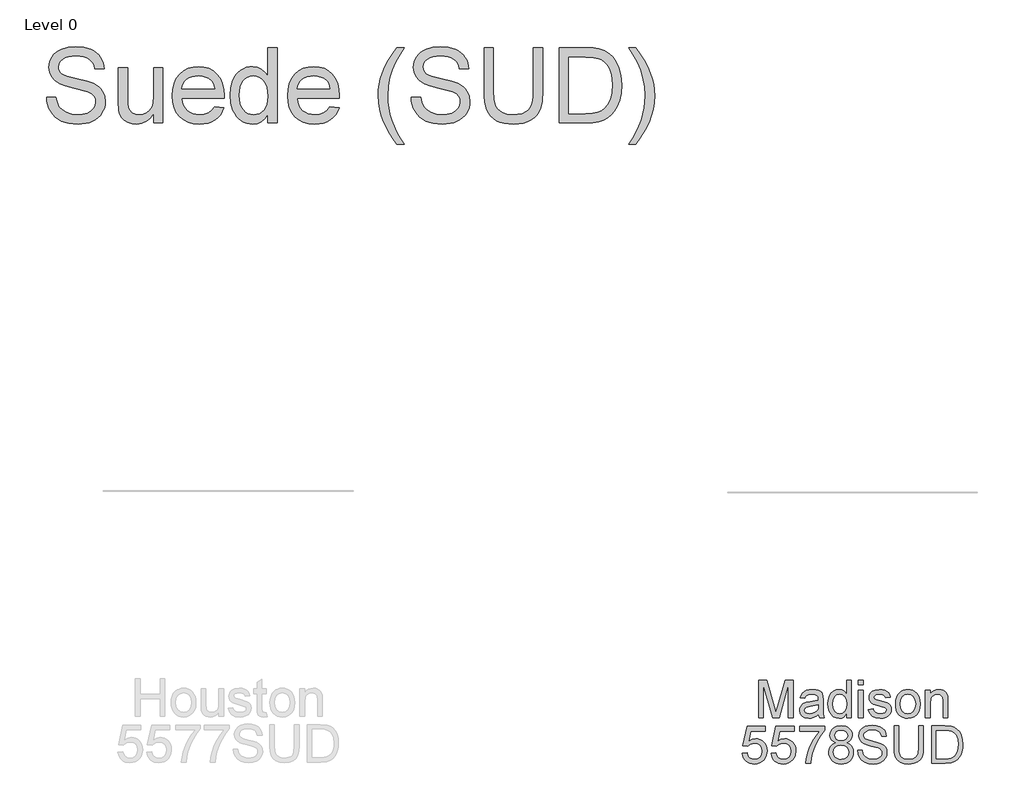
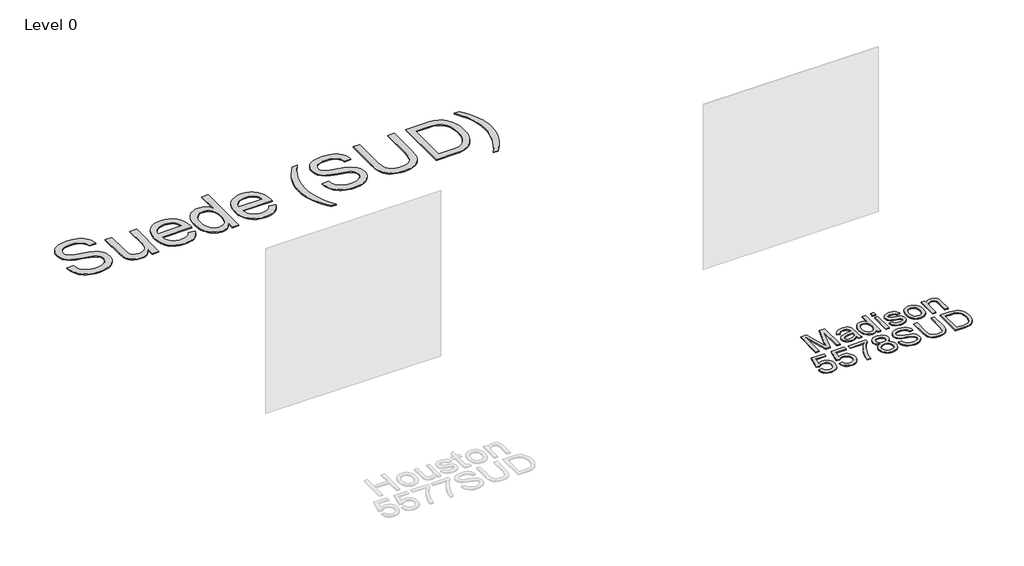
# One storey, part 3 of 9: 2 proxies.
"""IFC4 building model written with IfcOpenShell, lengths in millimetres."""

from ifc_helpers import new_model, si_unit, origin, origin_with_axes, place, context, project, spatial, polyline, outline, extrude, element, save

model = new_model("IFC4")

# Units and contexts
model_context = context("Model", 3, world=origin())
ifc_project = project(units=[si_unit("LENGTHUNIT", "METRE", prefix="MILLI")], contexts=[model_context])

# Site, building, storey
site = spatial("IfcSite", under=ifc_project)
building = spatial("IfcBuilding", under=site)
storey = spatial("IfcBuildingStorey", under=building, Name="Level 0", Elevation=0.0)

# Proxies
placement = place(None, origin())
element("IfcBuildingElementProxy", 1, Name="300mm Arial", ObjectType="300mm Arial", at=placement, inside=storey, context=model_context, shape_type="SweptSolid", body=[
    extrude(outline(polyline([(-5204.0803824, -17008.4454346), (-5204.0803824, -16707.0765041), (-5139.4803041, -16707.0765041), (-5077.6761289, -16919.4915681), (-5065.1681411, -16963.8581367), (-5051.70366, -16915.8127482), (-4991.0767072, -16707.0765041), (-4926.2558997, -16707.0765041), (-4926.2558997, -17008.4454346), (-4963.927016, -17008.4454346), (-4963.927016, -16744.7476204), (-5039.6371306, -17008.4454346), (-5090.6255751, -17008.4454346), (-5166.4092661, -16744.7476204), (-5166.4092661, -17008.4454346), (-5204.0803824, -17008.4454346)])), origin_with_axes(), (0.0, 0.0, 1.0), 10.0),
    extrude(outline(polyline([(-4723.7736495, -16980.1920973), (-4741.7722761, -16995.624747), (-4760.3043316, -17005.7231078), (-4779.7928803, -17011.29652), (-4800.6609865, -17013.1543241), (-4832.1424883, -17008.6845578), (-4855.3650392, -16995.2752591), (-4869.6848459, -16974.9129907), (-4874.4581148, -16949.5843153), (-4872.655493, -16933.9677246), (-4867.2476276, -16919.7858737), (-4858.9059034, -16907.6457679), (-4848.3017049, -16898.1544124), (-4821.9245658, -16885.7935774), (-4789.3302211, -16880.1281946), (-4750.8129762, -16874.1685063), (-4723.9943787, -16867.1787484), (-4723.7736495, -16858.7910389), (-4726.3672176, -16841.9788317), (-4734.1479218, -16830.9791601), (-4751.5487402, -16822.8121798), (-4775.7921636, -16820.089853), (-4798.2329654, -16821.9016718), (-4813.9047383, -16827.3371283), (-4824.5917103, -16837.3895038), (-4832.0781089, -16853.0520798), (-4869.7492252, -16848.3431903), (-4863.2101227, -16827.7417985), (-4853.4520528, -16811.5549907), (-4839.5645075, -16799.1757616), (-4820.6369789, -16789.9971058), (-4797.4880043, -16784.313329), (-4770.9361213, -16782.4187367), (-4745.4694902, -16784.0925998), (-4725.2819657, -16789.114189), (-4710.0608482, -16796.664967), (-4699.4934378, -16805.9263962), (-4692.4852858, -16817.3767233), (-4687.9419432, -16831.4941949), (-4686.1025332, -16864.4564216), (-4686.1025332, -16911.3245878), (-4684.1895468, -16976.7707948), (-4676.6847541, -17008.4454346), (-4714.3558705, -17008.4454346), (-4723.7736495, -16980.1920973)]), holes=[polyline([(-4723.7736495, -16904.8498647), (-4784.5477551, -16916.4013594), (-4816.9581589, -16922.5082005), (-4831.6366505, -16932.4410143), (-4836.7869984, -16946.935565), (-4833.9818982, -16958.1375717), (-4825.5665976, -16967.3162275), (-4811.7250375, -16973.4414627), (-4792.641159, -16975.4832078), (-4772.4076493, -16973.2299306), (-4754.5285843, -16966.4700989), (-4740.0340337, -16956.5096939), (-4729.954067, -16944.6546966), (-4725.4843008, -16932.4410143), (-4723.9943787, -16915.5184426), (-4723.7736495, -16904.8498647)])]), origin_with_axes(), (0.0, 0.0, 1.0), 10.0),
    extrude(outline(polyline([(-4497.7469517, -17008.4454346), (-4497.7469517, -16972.9080338), (-4509.0179363, -16990.5157858), (-4522.6709569, -17003.0927515), (-4538.7060133, -17010.6389309), (-4557.1231057, -17013.1543241), (-4581.4768938, -17009.5122923), (-4603.7705427, -16998.5861971), (-4622.6428891, -16981.1393935), (-4636.7327695, -16957.9352366), (-4645.5067551, -16929.9118256), (-4648.4314169, -16898.0072596), (-4645.7366813, -16866.4981667), (-4637.6524745, -16838.0424944), (-4624.1879934, -16814.2589234), (-4605.3524353, -16796.7661345), (-4582.5713427, -16786.0055862), (-4557.2702585, -16782.4187367), (-4538.8393706, -16784.9847136), (-4522.5421982, -16792.6826444), (-4508.7282292, -16804.4824594), (-4497.7469517, -16819.354089), (-4497.7469517, -16707.0765041), (-4460.0758354, -16707.0765041), (-4460.0758354, -17008.4454346), (-4497.7469517, -17008.4454346)]), holes=[polyline([(-4610.7603006, -16897.8601068), (-4606.5112636, -16931.9351766), (-4593.7641524, -16956.169403), (-4575.241294, -16970.6547566), (-4553.665015, -16975.4832078), (-4532.097933, -16970.8754858), (-4514.0441241, -16957.0523198), (-4501.8212448, -16933.7561925), (-4497.7469517, -16900.7295864), (-4501.8948212, -16864.6219685), (-4514.3384297, -16839.5875988), (-4532.8520911, -16824.9642895), (-4555.2101193, -16820.089853), (-4577.0071276, -16824.7711514), (-4594.8677984, -16838.8150466), (-4606.7871751, -16862.9389084), (-4610.7603006, -16897.8601068)])]), origin_with_axes(), (0.0, 0.0, 1.0), 10.0),
    extrude(outline(polyline([(-4403.5691609, -16744.7476204), (-4403.5691609, -16707.0765041), (-4365.8980446, -16707.0765041), (-4365.8980446, -16744.7476204), (-4403.5691609, -16744.7476204)])), origin_with_axes(), (0.0, 0.0, 1.0), 10.0),
    extrude(outline(polyline([(-4403.5691609, -17008.4454346), (-4403.5691609, -16787.1276263), (-4365.8980446, -16787.1276263), (-4365.8980446, -17008.4454346), (-4403.5691609, -17008.4454346)])), origin_with_axes(), (0.0, 0.0, 1.0), 10.0),
    extrude(outline(polyline([(-4323.5180388, -16942.520981), (-4285.8469225, -16937.8120915), (-4279.9056282, -16953.9253229), (-4268.4093159, -16965.7711231), (-4251.284409, -16973.0551866), (-4228.4573312, -16975.4832078), (-4205.9061649, -16973.2575217), (-4190.0504509, -16966.5804635), (-4180.66946, -16956.905167), (-4177.5424631, -16945.6847662), (-4180.6878541, -16936.0830461), (-4190.1240273, -16928.7621944), (-4228.8987896, -16918.0200401), (-4285.6261933, -16899.5891522), (-4299.9827881, -16890.3277229), (-4310.3846515, -16878.0680555), (-4316.7030248, -16863.591899), (-4318.8091492, -16847.6810027), (-4317.1168921, -16833.0852845), (-4312.0401205, -16819.6116064), (-4304.0386871, -16807.7933973), (-4293.5724444, -16798.1640861), (-4269.6233265, -16787.0172617), (-4237.2129227, -16782.4187367), (-4212.6935877, -16784.2673437), (-4191.3748261, -16789.8131648), (-4174.2315251, -16798.513574), (-4162.2385721, -16809.8259454), (-4154.292321, -16824.5872104), (-4149.2891259, -16843.6343007), (-4186.9602422, -16848.3431903), (-4191.715117, -16836.488193), (-4201.123699, -16827.5578575), (-4215.2779587, -16821.9568541), (-4234.2698667, -16820.089853), (-4255.9013281, -16821.8740807), (-4270.3223023, -16827.2267637), (-4278.4341003, -16834.9522856), (-4281.1380329, -16843.8550299), (-4276.6498726, -16854.8179134), (-4262.5967804, -16863.1320465), (-4230.1495884, -16871.151874), (-4174.8569245, -16888.8837861), (-4160.2520093, -16897.3634661), (-4149.1787613, -16908.9701431), (-4142.1982004, -16923.7406052), (-4139.8713468, -16941.7116406), (-4142.6028706, -16960.2896814), (-4150.797442, -16977.7640762), (-4164.1423614, -16992.7644645), (-4182.324929, -17003.920486), (-4204.2874841, -17010.8458646), (-4228.972366, -17013.1543241), (-4266.956182, -17008.7029519), (-4294.6760904, -16995.3488355), (-4313.1805547, -16973.2391276), (-4323.5180388, -16942.520981)])), origin_with_axes(), (0.0, 0.0, 1.0), 10.0),
    extrude(outline(polyline([(-4106.90912, -16897.7865304), (-4104.8719735, -16869.1239245), (-4098.7605338, -16844.425247), (-4088.5748011, -16823.690498), (-4074.3147752, -16806.9196776), (-4059.9581804, -16796.200516), (-4044.1116634, -16788.5439719), (-4026.7752244, -16783.9500455), (-4007.9488633, -16782.4187367), (-3987.1658298, -16784.2834386), (-3968.3739577, -16789.8775442), (-3951.5732468, -16799.2010535), (-3936.7636972, -16812.2539665), (-3924.6764744, -16828.5948249), (-3916.0427439, -16847.7821702), (-3910.8625055, -16869.8160025), (-3909.1357594, -16894.6963216), (-3912.18918, -16932.753714), (-3921.3494416, -16961.7244212), (-3936.34983, -16983.4202618), (-3956.9236306, -16999.6530549), (-3981.3601921, -17009.7790068), (-4007.9488633, -17013.1543241), (-4029.0353994, -17011.29652), (-4048.0020155, -17005.7231078), (-4064.8487117, -16996.4340874), (-4079.5754878, -16983.4294589), (-4091.5339519, -16966.9299514), (-4100.075712, -16947.1562942), (-4105.200768, -16924.1084872), (-4106.90912, -16897.7865304)]), holes=[polyline([(-4069.2380037, -16897.712954), (-4064.8786021, -16931.8064179), (-4051.8003971, -16956.0958266), (-4032.1187104, -16970.6363625), (-4007.9488633, -16975.4832078), (-3983.8893808, -16970.6087713), (-3964.2444823, -16955.985462), (-3951.1662774, -16931.3741566), (-3946.8068757, -16896.5357316), (-3951.1938685, -16863.4355491), (-3964.3548469, -16839.4772342), (-3984.0273366, -16824.9366983), (-4007.9488633, -16820.089853), (-4032.1187104, -16824.9183042), (-4051.8003971, -16839.4036578), (-4064.8786021, -16863.6378842), (-4069.2380037, -16897.712954)])]), origin_with_axes(), (0.0, 0.0, 1.0), 10.0),
    extrude(outline(polyline([(-3866.7557536, -17008.4454346), (-3866.7557536, -16787.1276263), (-3829.0846373, -16787.1276263), (-3829.0846373, -16818.0297138), (-3815.9972353, -16802.4499114), (-3800.279477, -16791.321481), (-3781.9313625, -16784.6444228), (-3760.9528918, -16782.4187367), (-3742.384048, -16784.2121614), (-3725.3787028, -16789.5924356), (-3711.1968519, -16797.8881746), (-3701.0984911, -16808.4279938), (-3689.8045139, -16836.129508), (-3687.8179511, -16872.5498255), (-3687.8179511, -17008.4454346), (-3725.4890674, -17008.4454346), (-3725.4890674, -16877.6265971), (-3729.830075, -16844.2964883), (-3735.8357485, -16834.3728715), (-3745.1707542, -16826.6749407), (-3757.1361161, -16821.7361249), (-3771.0328584, -16820.089853), (-3793.0965811, -16823.7870671), (-3811.9045481, -16834.8787092), (-3819.4208371, -16843.9332048), (-3824.789615, -16856.3078354), (-3829.0846373, -16891.0175017), (-3829.0846373, -17008.4454346), (-3866.7557536, -17008.4454346)])), origin_with_axes(), (0.0, 0.0, 1.0), 10.0),
    extrude(outline(polyline([(-5333.5748447, -17294.3187659), (-5295.9037284, -17289.6098764), (-5288.9875469, -17312.2254221), (-5276.9210175, -17328.4214269), (-5259.7593224, -17338.1611027), (-5237.557644, -17341.4076613), (-5210.5551055, -17336.8919098), (-5190.3215958, -17323.3446554), (-5177.6848493, -17302.3293964), (-5173.4726004, -17275.4096314), (-5177.4181348, -17250.0625619), (-5189.254738, -17230.6751808), (-5209.0743805, -17218.369528), (-5236.9690328, -17214.2676438), (-5255.2435709, -17215.9047187), (-5270.0416242, -17220.8159433), (-5291.1948389, -17237.8120915), (-5328.8659552, -17233.1032019), (-5295.9037284, -17077.7098472), (-5149.9281527, -17077.7098472), (-5149.9281527, -17115.3809635), (-5265.4430992, -17115.3809635), (-5281.629907, -17198.3751416), (-5254.7193391, -17182.041181), (-5226.5211841, -17176.5965275), (-5208.1730696, -17178.2841861), (-5191.3148772, -17183.3471621), (-5175.9466068, -17191.7854554), (-5162.0682586, -17203.5990659), (-5150.5765448, -17218.0660254), (-5142.3681777, -17234.4643653), (-5137.4431575, -17252.7940857), (-5135.8014841, -17273.0551866), (-5141.7059901, -17310.7263029), (-5149.0866227, -17327.520116), (-5159.4195082, -17342.9527657), (-5175.0728871, -17358.7578959), (-5193.3382282, -17370.0472746), (-5214.2155314, -17376.8209019), (-5237.7047968, -17379.0787776), (-5274.7045285, -17373.2754392), (-5290.3831992, -17366.0212661), (-5304.1810733, -17355.8654237), (-5315.6612908, -17343.3137499), (-5324.3869919, -17328.8720823), (-5333.5748447, -17294.3187659)])), origin_with_axes(), (0.0, 0.0, 1.0), 10.0),
    extrude(outline(polyline([(-5102.8392574, -17294.3187659), (-5065.1681411, -17289.6098764), (-5058.2519595, -17312.2254221), (-5046.1854301, -17328.4214269), (-5029.023735, -17338.1611027), (-5006.8220566, -17341.4076613), (-4979.8195182, -17336.8919098), (-4959.5860084, -17323.3446554), (-4946.9492619, -17302.3293964), (-4942.7370131, -17275.4096314), (-4946.6825475, -17250.0625619), (-4958.5191506, -17230.6751808), (-4978.3387931, -17218.369528), (-5006.2334454, -17214.2676438), (-5024.5079835, -17215.9047187), (-5039.3060368, -17220.8159433), (-5060.4592515, -17237.8120915), (-5098.1303678, -17233.1032019), (-5065.1681411, -17077.7098472), (-4919.1925654, -17077.7098472), (-4919.1925654, -17115.3809635), (-5034.7075119, -17115.3809635), (-5050.8943196, -17198.3751416), (-5023.9837517, -17182.041181), (-4995.7855968, -17176.5965275), (-4977.4374823, -17178.2841861), (-4960.5792898, -17183.3471621), (-4945.2110195, -17191.7854554), (-4931.3326712, -17203.5990659), (-4919.8409574, -17218.0660254), (-4911.6325904, -17234.4643653), (-4906.7075702, -17252.7940857), (-4905.0658967, -17273.0551866), (-4910.9704028, -17310.7263029), (-4918.3510353, -17327.520116), (-4928.6839208, -17342.9527657), (-4944.3372997, -17358.7578959), (-4962.6026408, -17370.0472746), (-4983.479944, -17376.8209019), (-5006.9692094, -17379.0787776), (-5043.9689411, -17373.2754392), (-5059.6476119, -17366.0212661), (-5073.4454859, -17355.8654237), (-5084.9257035, -17343.3137499), (-5093.6514045, -17328.8720823), (-5102.8392574, -17294.3187659)])), origin_with_axes(), (0.0, 0.0, 1.0), 10.0),
    extrude(outline(polyline([(-4872.10367, -17115.3809635), (-4872.10367, -17077.7098472), (-4674.3303094, -17077.7098472), (-4674.3303094, -17108.1704764), (-4702.5192673, -17143.8458329), (-4730.4323136, -17189.2148799), (-4755.0528162, -17240.1389451), (-4773.3641425, -17292.479356), (-4782.3404632, -17331.6403943), (-4787.3436583, -17374.3698881), (-4825.0147746, -17374.3698881), (-4820.9404815, -17335.5399435), (-4810.0419774, -17289.3891472), (-4792.6135679, -17240.4700389), (-4768.9495585, -17193.3351583), (-4741.3216207, -17150.7252262), (-4712.0014257, -17115.3809635), (-4872.10367, -17115.3809635)])), origin_with_axes(), (0.0, 0.0, 1.0), 10.0),
    extrude(outline(polyline([(-4586.4800889, -17208.3815319), (-4606.6492193, -17198.448718), (-4620.8034791, -17184.984237), (-4629.1635974, -17168.2640003), (-4631.9503035, -17148.5639194), (-4630.4327903, -17133.2002476), (-4625.8802506, -17119.1149657), (-4618.2926845, -17106.3080738), (-4607.6700918, -17094.7795718), (-4594.522909, -17085.2514281), (-4579.3615723, -17078.4456112), (-4542.9964371, -17073.0009576), (-4506.4105727, -17078.5743699), (-4491.0836891, -17085.5411351), (-4477.7341712, -17095.2946065), (-4466.9184405, -17107.0484363), (-4459.1929186, -17120.0162766), (-4454.5576055, -17134.1981275), (-4453.0125011, -17149.593989), (-4455.762419, -17168.6594734), (-4464.0121727, -17185.0946016), (-4477.8537328, -17198.4763091), (-4497.3790697, -17208.3815319), (-4474.1933069, -17220.3284997), (-4457.3167204, -17237.9224561), (-4447.0252216, -17260.3172725), (-4443.594722, -17286.6668204), (-4445.2961762, -17305.4563933), (-4450.4005389, -17322.6824678), (-4458.90781, -17338.3450437), (-4470.8179896, -17352.4441212), (-4485.5056783, -17364.0967834), (-4502.3454766, -17372.4201135), (-4521.3373846, -17377.4141116), (-4542.4814023, -17379.0787776), (-4563.62542, -17377.4072138), (-4582.617328, -17372.3925224), (-4599.4571263, -17364.0347033), (-4614.144815, -17352.3337566), (-4626.0549946, -17338.1358108), (-4634.5622657, -17322.2869946), (-4639.6666284, -17304.787308), (-4641.3680826, -17285.6367509), (-4637.7996273, -17258.2663304), (-4627.0942612, -17235.7519523), (-4609.8038074, -17218.8661687), (-4586.4800889, -17208.3815319)]), holes=[polyline([(-4594.2791872, -17149.6675654), (-4590.9406581, -17166.1118906), (-4580.9250708, -17179.2452778), (-4564.5267309, -17187.8537165), (-4542.0399439, -17190.7231961), (-4520.0773888, -17187.8721106), (-4503.9273692, -17179.3188542), (-4493.9945553, -17166.6269254), (-4490.6836174, -17151.3598226), (-4494.1049199, -17135.5133057), (-4504.3688276, -17122.4075096), (-4520.7395764, -17113.6059329), (-4542.4814023, -17110.6720739), (-4564.361184, -17113.5415535), (-4580.7043416, -17122.1499922), (-4590.8854758, -17134.7683446), (-4594.2791872, -17149.6675654)]), polyline([(-4603.6969663, -17284.3123757), (-4597.4061842, -17312.6760775), (-4588.6965779, -17324.8437745), (-4575.1493235, -17333.9028686), (-4558.9257275, -17339.5314631), (-4542.1870967, -17341.4076613), (-4516.5457216, -17337.4621269), (-4497.3054933, -17325.6255237), (-4485.2757521, -17307.7004735), (-4481.2658383, -17285.4895981), (-4485.4045108, -17262.9016435), (-4497.8205281, -17244.5811202), (-4517.5022148, -17232.4410143), (-4543.4378955, -17228.3943124), (-4568.7205856, -17232.385832), (-4587.7676759, -17244.360391), (-4599.7146437, -17262.3314265), (-4603.6969663, -17284.3123757)])]), origin_with_axes(), (0.0, 0.0, 1.0), 10.0),
    extrude(outline(polyline([(-4410.6324952, -17270.7743182), (-4372.9613789, -17270.7743182), (-4368.6387655, -17291.6792126), (-4360.8212731, -17308.4822228), (-4348.6259849, -17321.8179451), (-4331.1699843, -17332.320976), (-4309.8328286, -17339.13599), (-4285.9940753, -17341.4076613), (-4265.0064074, -17339.687813), (-4246.6307018, -17334.528268), (-4231.740678, -17326.3612877), (-4221.2100559, -17315.6191335), (-4214.9468649, -17303.2858896), (-4212.8591346, -17290.3456404), (-4214.4226331, -17277.736485), (-4219.1131285, -17266.8379809), (-4228.6412722, -17257.5397635), (-4244.7177154, -17249.7314681), (-4299.5689209, -17235.3472821), (-4335.5753712, -17225.8283355), (-4358.6139811, -17216.7692414), (-4377.3667658, -17204.0957066), (-4390.6565029, -17188.7366333), (-4398.5751628, -17171.0231153), (-4401.2147162, -17151.2862462), (-4397.9497634, -17129.2225236), (-4388.1549053, -17108.648723), (-4372.0876592, -17091.2111164), (-4350.0055424, -17078.5559758), (-4323.4996447, -17070.858045), (-4294.1610556, -17068.2920681), (-4262.3760512, -17070.9776067), (-4234.5641723, -17079.0342224), (-4211.7187004, -17092.2963683), (-4194.8329169, -17110.5984975), (-4184.1459449, -17132.800176), (-4179.8969079, -17157.7609693), (-4217.5680242, -17157.7609693), (-4224.4842057, -17135.2833794), (-4238.9051799, -17119.0597834), (-4261.4379521, -17109.2373342), (-4292.6895276, -17105.9631844), (-4324.6768671, -17109.200546), (-4346.6210281, -17118.9126306), (-4359.3129569, -17133.2048461), (-4363.5435998, -17150.1826002), (-4360.5453616, -17164.6587567), (-4351.5506468, -17176.3022219), (-4330.2870675, -17186.7132823), (-4290.0407772, -17197.345072), (-4248.5069, -17207.4434328), (-4223.3805597, -17216.2542066), (-4201.9054482, -17229.9210227), (-4186.923454, -17246.7884122), (-4178.1218772, -17266.672434), (-4175.1880183, -17289.3891472), (-4178.5633356, -17312.6116981), (-4188.6892875, -17334.4546916), (-4205.1520068, -17353.2534616), (-4227.5376262, -17367.343342), (-4254.4573912, -17376.1449187), (-4284.5225473, -17379.0787776), (-4321.4303085, -17375.9149925), (-4351.8081642, -17366.423637), (-4376.0056024, -17350.567923), (-4394.372111, -17328.3110623), (-4406.162729, -17301.1981592), (-4410.6324952, -17270.7743182)])), origin_with_axes(), (0.0, 0.0, 1.0), 10.0),
    extrude(outline(polyline([(-3920.9079833, -17073.0009576), (-3883.2368669, -17073.0009576), (-3883.2368669, -17246.8619886), (-3885.7936468, -17287.5773284), (-3893.4639864, -17318.9300714), (-3907.7929901, -17343.1183126), (-3930.3257623, -17362.3401468), (-3961.1174853, -17374.8941199), (-4000.2233414, -17379.0787776), (-4038.4738719, -17375.4367459), (-4069.0540627, -17364.5106506), (-4091.973111, -17346.6775709), (-4107.2402138, -17322.3145858), (-4115.8210613, -17289.6374675), (-4118.6813439, -17246.8619886), (-4118.6813439, -17073.0009576), (-4081.0102276, -17073.0009576), (-4081.0102276, -17245.5376134), (-4079.1524235, -17279.391954), (-4073.5790113, -17302.9639928), (-4063.4806505, -17319.2887564), (-4048.0480008, -17331.4012711), (-4027.9248556, -17338.9060638), (-4003.7550086, -17341.4076613), (-3965.4400988, -17336.4596485), (-3951.0972995, -17330.2746324), (-3939.9642706, -17321.61561), (-3931.6271449, -17309.4387159), (-3925.6720551, -17292.7000852), (-3920.9079833, -17245.5376134), (-3920.9079833, -17073.0009576)])), origin_with_axes(), (0.0, 0.0, 1.0), 10.0),
    extrude(outline(polyline([(-3817.3124134, -17374.3698881), (-3817.3124134, -17073.0009576), (-3713.3489616, -17073.0009576), (-3659.5646139, -17077.3419652), (-3635.5419196, -17085.7112806), (-3615.2716217, -17098.8998501), (-3594.4311066, -17121.8556866), (-3579.5870681, -17150.4033294), (-3570.7027179, -17183.9909556), (-3567.7412679, -17222.0667421), (-3569.7462248, -17254.4127665), (-3575.7610954, -17282.8776359), (-3584.9213571, -17307.1118623), (-3596.3624871, -17326.7659579), (-3609.5326625, -17342.2813811), (-3623.8800603, -17354.0995902), (-3640.3519767, -17362.8643787), (-3659.8957077, -17369.2195402), (-3708.3457664, -17374.3698881), (-3817.3124134, -17374.3698881)]), holes=[polyline([(-3779.6412971, -17336.6987718), (-3712.9810796, -17336.6987718), (-3685.408324, -17335.3376084), (-3664.4942326, -17331.2541183), (-3648.712095, -17324.6874246), (-3636.535201, -17315.8766509), (-3623.447799, -17299.5702814), (-3613.6161527, -17278.4630519), (-3607.4633263, -17252.4629919), (-3605.4123842, -17221.4781309), (-3609.431495, -17180.4225002), (-3621.4888274, -17150.1090238), (-3639.303513, -17129.2869029), (-3660.5946835, -17116.7053387), (-3682.262933, -17112.1803901), (-3714.0111492, -17110.6720739), (-3779.6412971, -17110.6720739), (-3779.6412971, -17336.6987718)])]), origin_with_axes(), (0.0, 0.0, 1.0), 10.0),
])
element("IfcBuildingElementProxy", 2, Name="600mm Arial", ObjectType="600mm Arial", at=placement, inside=storey, context=model_context, shape_type="SweptSolid", body=[
    extrude(outline(polyline([(-10905.7165225, -12038.2658482), (-10830.3742899, -12038.2658482), (-10821.729063, -12080.075637), (-10806.0940782, -12113.6816572), (-10781.7035019, -12140.3531019), (-10746.7915006, -12161.3591638), (-10704.1171891, -12174.9891917), (-10656.4396825, -12179.5325344), (-10614.4643469, -12176.0928377), (-10577.7129356, -12165.7737477), (-10547.9328881, -12149.4397872), (-10526.8716438, -12127.9554786), (-10514.3452619, -12103.2889909), (-10510.1698013, -12077.4084925), (-10513.2967982, -12052.1901817), (-10522.6777891, -12030.3931735), (-10541.7340764, -12011.7967387), (-10573.8869628, -11996.180148), (-10683.5893738, -11967.4117759), (-10755.6022743, -11948.3738827), (-10801.6794942, -11930.2556944), (-10839.1850636, -11904.908625), (-10865.7645378, -11874.1904784), (-10881.6018577, -11838.7634422), (-10886.8809643, -11799.2897041), (-10885.248488, -11776.853501), (-10880.3510589, -11755.1622588), (-10872.1886771, -11734.2159777), (-10860.7613427, -11714.0146577), (-10846.1978142, -11695.3814346), (-10828.6268504, -11679.1394445), (-10808.0484513, -11665.2886874), (-10784.4626169, -11653.8291633), (-10731.4508214, -11638.4333018), (-10672.7736431, -11633.3013479), (-10609.2036344, -11638.6724251), (-10553.5798767, -11654.7856564), (-10529.2444827, -11666.7878065), (-10507.8889329, -11681.3099483), (-10489.5132272, -11698.3520817), (-10474.1173657, -11717.9142068), (-10461.82091, -11739.4261065), (-10452.7434218, -11762.3175636), (-10446.884901, -11786.5885783), (-10444.2453477, -11812.2391504), (-10519.5875803, -11812.2391504), (-10524.6275637, -11788.198062), (-10533.4199434, -11767.2839706), (-10545.9647194, -11749.4968761), (-10562.2618918, -11734.8367786), (-10582.6149632, -11723.3772544), (-10607.3274362, -11715.1918801), (-10636.3993109, -11710.2806554), (-10669.8305872, -11708.6435805), (-10704.3287213, -11710.2622613), (-10733.8052661, -11715.1183037), (-10758.2602218, -11723.2117075), (-10777.6935881, -11734.542473), (-10792.5008385, -11748.1633039), (-10803.0774458, -11763.126904), (-10809.4234102, -11779.4332735), (-10811.5387317, -11797.0824122), (-10810.0396126, -11812.2667415), (-10805.5422552, -11826.0347252), (-10798.0466595, -11838.3863632), (-10787.5528256, -11849.3216555), (-10771.034924, -11859.6775337), (-10745.025667, -11870.1437764), (-10664.5330864, -11891.4073557), (-10581.4653319, -11911.6040773), (-10531.2126514, -11929.2256248), (-10488.2624284, -11956.5592571), (-10471.6571549, -11972.6265032), (-10458.2984399, -11990.294036), (-10448.0299337, -12009.469885), (-10440.6952865, -12030.0620797), (-10434.8275686, -12075.4955061), (-10436.5152273, -12099.0629464), (-10441.5782033, -12121.940608), (-10450.0164965, -12144.1284909), (-10461.8301071, -12165.6265949), (-10476.8121013, -12185.6025873), (-10494.7555457, -12203.2241349), (-10515.66044, -12218.4912377), (-10539.5267845, -12231.4038957), (-10565.6602017, -12241.6724019), (-10593.3663145, -12249.0070492), (-10653.4966266, -12254.874767), (-10692.0368641, -12253.2928744), (-10727.3121489, -12248.5471967), (-10759.322481, -12240.6377338), (-10788.0678604, -12229.5644857), (-10813.7230311, -12215.3090584), (-10836.4627369, -12197.8530577), (-10856.2869779, -12177.1964837), (-10873.1957541, -12153.3393363), (-10886.816585, -12127.0541678), (-10896.77699, -12099.1135302), (-10903.0769692, -12069.5174237), (-10905.7165225, -12038.2658482)])), origin_with_axes(), (0.0, 0.0, 1.0), 10.0),
    extrude(outline(polyline([(-10048.6986265, -12245.4569879), (-10048.6986265, -12169.3789913), (-10075.9586823, -12206.7833932), (-10107.7068985, -12233.5008231), (-10143.9432751, -12249.531281), (-10184.6678119, -12254.874767), (-10221.3640409, -12251.1223706), (-10255.5218842, -12239.8651816), (-10284.1798916, -12222.9426098), (-10304.3766132, -12202.1940653), (-10317.9698529, -12176.9941486), (-10326.8174149, -12146.7174604), (-10331.2319988, -12076.6727285), (-10331.2319988, -11802.8213713), (-10255.8897662, -11802.8213713), (-10255.8897662, -12041.2089042), (-10254.749332, -12088.8864108), (-10251.3280295, -12118.0226648), (-10240.3467519, -12143.6456457), (-10221.5295878, -12163.1249974), (-10196.1273361, -12175.4306501), (-10165.3907954, -12179.5325344), (-10132.8884211, -12175.3386796), (-10102.4829742, -12162.7571154), (-10077.4118162, -12142.9466699), (-10060.9123087, -12117.0661716), (-10051.7520471, -12081.6207413), (-10048.6986265, -12033.1155003), (-10048.6986265, -11802.8213713), (-9973.3563939, -11802.8213713), (-9973.3563939, -12245.4569879), (-10048.6986265, -12245.4569879)])), origin_with_axes(), (0.0, 0.0, 1.0), 10.0),
    extrude(outline(polyline([(-9559.8570313, -12113.6080808), (-9485.9863267, -12123.0258599), (-9497.3124936, -12152.6127694), (-9512.602589, -12178.6864058), (-9531.856613, -12201.2467691), (-9555.0745654, -12220.2938594), (-9582.017323, -12235.4230065), (-9612.4457625, -12246.2295401), (-9646.359884, -12252.7134603), (-9683.7596873, -12254.874767), (-9730.5082918, -12251.1453632), (-9772.1617307, -12239.9571521), (-9808.720004, -12221.3101334), (-9840.1831116, -12195.2043074), (-9865.4841959, -12162.3662408), (-9883.5563989, -12123.5225006), (-9894.3997207, -12078.6730869), (-9898.0141613, -12027.8179996), (-9894.3629325, -11975.2384654), (-9883.4092461, -11928.894531), (-9865.1531021, -11888.7861965), (-9839.5945004, -11854.9134618), (-9808.2141663, -11828.0028939), (-9772.4928245, -11808.7810596), (-9732.4304753, -11797.2479591), (-9688.0271184, -11793.4035922), (-9645.0539029, -11797.238762), (-9606.1917686, -11808.7442714), (-9571.4407156, -11827.9201204), (-9540.800744, -11854.766309), (-9515.7893668, -11888.5654673), (-9497.9240974, -11928.6002255), (-9487.2049358, -11974.8705834), (-9483.6318819, -12027.3765412), (-9484.0733403, -12047.6836273), (-9822.6719287, -12047.6836273), (-9818.3079285, -12077.7487833), (-9809.6305119, -12104.0799372), (-9796.639679, -12126.6770887), (-9779.3354296, -12145.540238), (-9758.6742571, -12160.4118677), (-9735.6126545, -12171.0344603), (-9710.1506219, -12177.4080158), (-9682.2881593, -12179.5325344), (-9642.1890218, -12175.596197), (-9608.4174547, -12163.787185), (-9580.9734578, -12143.3697342), (-9559.8570313, -12113.6080808)]), holes=[polyline([(-9822.6719287, -11972.3413947), (-9558.9741145, -11972.3413947), (-9569.1644458, -11932.5365628), (-9577.9292343, -11916.8831839), (-9589.1404381, -11904.0624964), (-9609.6866476, -11888.6114526), (-9633.0655484, -11877.5749927), (-9659.2771405, -11870.9531168), (-9688.321424, -11868.7458248), (-9714.8135262, -11870.5070599), (-9739.1075335, -11875.790765), (-9761.2034458, -11884.5969403), (-9781.1012632, -11896.9255857), (-9797.7985073, -11912.206484), (-9810.2926995, -11929.8694183), (-9818.58384, -11949.9143885), (-9822.6719287, -11972.3413947)])]), origin_with_axes(), (0.0, 0.0, 1.0), 10.0),
    extrude(outline(polyline([(-9135.1740561, -12245.4569879), (-9135.1740561, -12174.3821864), (-9157.7160253, -12209.5976904), (-9185.0220664, -12234.7516218), (-9217.0921794, -12249.8439807), (-9253.9263641, -12254.874767), (-9278.795187, -12253.0537511), (-9302.6339403, -12247.5907035), (-9325.442624, -12238.4856241), (-9347.2212381, -12225.738513), (-9367.2892009, -12209.7310476), (-9384.9659308, -12190.8449057), (-9400.2514277, -12169.0800872), (-9413.1456916, -12144.436592), (-9423.3820082, -12117.3834698), (-9430.6936628, -12088.3897701), (-9436.5429865, -12024.580638), (-9431.1535153, -11961.5624522), (-9414.9851016, -11904.6511076), (-9402.8633899, -11879.294841), (-9388.0561396, -11857.0839656), (-9370.5633507, -11838.0184812), (-9350.3850233, -11822.0983878), (-9328.2339286, -11809.5444148), (-9304.8228382, -11800.5772911), (-9280.1517519, -11795.197017), (-9254.2206697, -11793.4035922), (-9217.3588938, -11798.5355461), (-9184.764549, -11813.9314076), (-9157.1366112, -11837.5310375), (-9135.1740561, -11867.2742969), (-9135.1740561, -11642.719127), (-9059.8318235, -11642.719127), (-9059.8318235, -12245.4569879), (-9135.1740561, -12245.4569879)]), holes=[polyline([(-9361.2007539, -12024.2863324), (-9359.0762354, -12060.821613), (-9352.7026798, -12092.436472), (-9342.0800872, -12119.1309093), (-9327.2084576, -12140.9049249), (-9309.4489542, -12157.804504), (-9290.1627407, -12169.875632), (-9269.3498168, -12177.1183088), (-9247.0101826, -12179.5325344), (-9224.5647824, -12177.2286734), (-9203.8760187, -12170.3170904), (-9184.9438915, -12158.7977854), (-9167.7684009, -12142.6707584), (-9153.508375, -12121.8072508), (-9143.3226423, -12096.0785038), (-9137.2112026, -12065.4845173), (-9135.1740561, -12030.0252915), (-9137.2479908, -11991.1493617), (-9143.4697951, -11957.8100559), (-9153.8394688, -11930.0073741), (-9168.357012, -11907.7413163), (-9185.9095817, -11890.6807888), (-9205.3843349, -11878.4946977), (-9226.7812714, -11871.1830431), (-9250.1003914, -11868.7458248), (-9272.8814839, -11871.086474), (-9293.6944078, -11878.1084216), (-9312.539163, -11889.8116676), (-9329.4157495, -11906.1962119), (-9343.321689, -11927.6207396), (-9353.2545028, -11954.4439356), (-9359.2141911, -11986.6657999), (-9361.2007539, -12024.2863324)])]), origin_with_axes(), (0.0, 0.0, 1.0), 10.0),
    extrude(outline(polyline([(-8636.9146818, -12113.6080808), (-8563.0439772, -12123.0258599), (-8574.3701441, -12152.6127694), (-8589.6602395, -12178.6864058), (-8608.9142635, -12201.2467691), (-8632.1322159, -12220.2938594), (-8659.0749735, -12235.4230065), (-8689.503413, -12246.2295401), (-8723.4175345, -12252.7134603), (-8760.8173378, -12254.874767), (-8807.5659423, -12251.1453632), (-8849.2193812, -12239.9571521), (-8885.7776545, -12221.3101334), (-8917.2407621, -12195.2043074), (-8942.5418464, -12162.3662408), (-8960.6140494, -12123.5225006), (-8971.4573712, -12078.6730869), (-8975.0718118, -12027.8179996), (-8971.420583, -11975.2384654), (-8960.4668966, -11928.894531), (-8942.2107526, -11888.7861965), (-8916.6521509, -11854.9134618), (-8885.2718168, -11828.0028939), (-8849.550475, -11808.7810596), (-8809.4881258, -11797.2479591), (-8765.0847689, -11793.4035922), (-8722.1115534, -11797.238762), (-8683.2494191, -11808.7442714), (-8648.4983661, -11827.9201204), (-8617.8583945, -11854.766309), (-8592.8470173, -11888.5654673), (-8574.9817479, -11928.6002255), (-8564.2625863, -11974.8705834), (-8560.6895324, -12027.3765412), (-8561.1309908, -12047.6836273), (-8899.7295792, -12047.6836273), (-8895.365579, -12077.7487833), (-8886.6881624, -12104.0799372), (-8873.6973295, -12126.6770887), (-8856.3930801, -12145.540238), (-8835.7319076, -12160.4118677), (-8812.670305, -12171.0344603), (-8787.2082724, -12177.4080158), (-8759.3458098, -12179.5325344), (-8719.2466723, -12175.596197), (-8685.4751052, -12163.787185), (-8658.0311083, -12143.3697342), (-8636.9146818, -12113.6080808)]), holes=[polyline([(-8899.7295792, -11972.3413947), (-8636.031765, -11972.3413947), (-8646.2220963, -11932.5365628), (-8654.9868848, -11916.8831839), (-8666.1980886, -11904.0624964), (-8686.7442981, -11888.6114526), (-8710.1231989, -11877.5749927), (-8736.334791, -11870.9531168), (-8765.3790745, -11868.7458248), (-8791.8711767, -11870.5070599), (-8816.165184, -11875.790765), (-8838.2610963, -11884.5969403), (-8858.1589137, -11896.9255857), (-8874.8561578, -11912.206484), (-8887.35035, -11929.8694183), (-8895.6414905, -11949.9143885), (-8899.7295792, -11972.3413947)])]), origin_with_axes(), (0.0, 0.0, 1.0), 10.0),
    extrude(outline(polyline([(-8099.2183577, -12414.9770113), (-8129.6330016, -12375.6228348), (-8157.6012303, -12333.049691), (-8183.1230437, -12287.2575796), (-8206.1984419, -12238.2465008), (-8225.3191086, -12187.1660858), (-8238.9767276, -12135.1659657), (-8247.1712991, -12082.2461407), (-8249.9028229, -12028.4066107), (-8247.8610778, -11981.0877891), (-8241.7358426, -11934.780643), (-8231.5271172, -11889.4851723), (-8217.2349017, -11845.2013771), (-8195.5114699, -11794.4152677), (-8168.600902, -11743.7395229), (-8136.5031979, -11693.1741426), (-8099.2183577, -11642.719127), (-8042.7116832, -11642.719127), (-8087.0414636, -11714.3457515), (-8113.1978735, -11762.0600462), (-8137.257356, -11818.7138735), (-8155.5778793, -11877.7221455), (-8169.8149125, -11953.1011663), (-8174.5605903, -12028.8480691), (-8172.5004511, -12077.1463766), (-8166.3200336, -12125.435487), (-8156.0193377, -12173.7154003), (-8141.5983635, -12221.9861166), (-8123.057111, -12270.2476358), (-8100.3955801, -12318.499958), (-8073.6137708, -12366.7430832), (-8042.7116832, -12414.9770113), (-8099.2183577, -12414.9770113)])), origin_with_axes(), (0.0, 0.0, 1.0), 10.0),
    extrude(outline(polyline([(-7986.2050087, -12038.2658482), (-7910.8627761, -12038.2658482), (-7902.2175492, -12080.075637), (-7886.5825645, -12113.6816572), (-7862.1919882, -12140.3531019), (-7827.2799868, -12161.3591638), (-7784.6056754, -12174.9891917), (-7736.9281688, -12179.5325344), (-7694.9528332, -12176.0928377), (-7658.2014218, -12165.7737477), (-7628.4213743, -12149.4397872), (-7607.3601301, -12127.9554786), (-7594.8337482, -12103.2889909), (-7590.6582875, -12077.4084925), (-7593.7852845, -12052.1901817), (-7603.1662754, -12030.3931735), (-7622.2225627, -12011.7967387), (-7654.3754491, -11996.180148), (-7764.0778601, -11967.4117759), (-7836.0907606, -11948.3738827), (-7882.1679805, -11930.2556944), (-7919.6735499, -11904.908625), (-7946.2530241, -11874.1904784), (-7962.090344, -11838.7634422), (-7967.3694506, -11799.2897041), (-7965.7369742, -11776.853501), (-7960.8395452, -11755.1622588), (-7952.6771634, -11734.2159777), (-7941.2498289, -11714.0146577), (-7926.6863005, -11695.3814346), (-7909.1153367, -11679.1394445), (-7888.5369376, -11665.2886874), (-7864.9511031, -11653.8291633), (-7811.9393076, -11638.4333018), (-7753.2621294, -11633.3013479), (-7689.6921206, -11638.6724251), (-7634.068363, -11654.7856564), (-7609.732969, -11666.7878065), (-7588.3774192, -11681.3099483), (-7570.0017135, -11698.3520817), (-7554.605852, -11717.9142068), (-7542.3093963, -11739.4261065), (-7533.2319081, -11762.3175636), (-7527.3733873, -11786.5885783), (-7524.733834, -11812.2391504), (-7600.0760666, -11812.2391504), (-7605.1160499, -11788.198062), (-7613.9084296, -11767.2839706), (-7626.4532057, -11749.4968761), (-7642.7503781, -11734.8367786), (-7663.1034494, -11723.3772544), (-7687.8159225, -11715.1918801), (-7716.8877971, -11710.2806554), (-7750.3190734, -11708.6435805), (-7784.8172075, -11710.2622613), (-7814.2937524, -11715.1183037), (-7838.748708, -11723.2117075), (-7858.1820744, -11734.542473), (-7872.9893247, -11748.1633039), (-7883.5659321, -11763.126904), (-7889.9118965, -11779.4332735), (-7892.027218, -11797.0824122), (-7890.5280989, -11812.2667415), (-7886.0307415, -11826.0347252), (-7878.5351458, -11838.3863632), (-7868.0413119, -11849.3216555), (-7851.5234103, -11859.6775337), (-7825.5141533, -11870.1437764), (-7745.0215727, -11891.4073557), (-7661.9538182, -11911.6040773), (-7611.7011377, -11929.2256248), (-7568.7509147, -11956.5592571), (-7552.1456412, -11972.6265032), (-7538.7869262, -11990.294036), (-7528.51842, -12009.469885), (-7521.1837727, -12030.0620797), (-7515.3160549, -12075.4955061), (-7517.0037136, -12099.0629464), (-7522.0666895, -12121.940608), (-7530.5049828, -12144.1284909), (-7542.3185934, -12165.6265949), (-7557.3005876, -12185.6025873), (-7575.2440319, -12203.2241349), (-7596.1489263, -12218.4912377), (-7620.0152707, -12231.4038957), (-7646.148688, -12241.6724019), (-7673.8548007, -12249.0070492), (-7733.9851129, -12254.874767), (-7772.5253504, -12253.2928744), (-7807.8006352, -12248.5471967), (-7839.8109673, -12240.6377338), (-7868.5563467, -12229.5644857), (-7894.2115173, -12215.3090584), (-7916.9512232, -12197.8530577), (-7936.7754642, -12177.1964837), (-7953.6842404, -12153.3393363), (-7967.3050712, -12127.0541678), (-7977.2654763, -12099.1135302), (-7983.5654554, -12069.5174237), (-7986.2050087, -12038.2658482)])), origin_with_axes(), (0.0, 0.0, 1.0), 10.0),
    extrude(outline(polyline([(-7006.7559848, -11642.719127), (-6931.4137522, -11642.719127), (-6931.4137522, -11990.4411888), (-6936.5273119, -12071.8718685), (-6942.9192616, -12105.5652607), (-6951.8679911, -12134.5773546), (-6964.1460527, -12160.0071975), (-6980.5259985, -12182.9538369), (-7001.0078286, -12203.4172729), (-7025.5915429, -12221.3975054), (-7054.3047327, -12236.0438073), (-7087.1749889, -12246.5054516), (-7124.2023117, -12252.7824381), (-7165.3867011, -12254.874767), (-7205.5548165, -12253.0537511), (-7241.887762, -12247.5907035), (-7274.3855378, -12238.4856241), (-7303.0481437, -12225.738513), (-7327.8801784, -12209.5379096), (-7348.8862403, -12190.0723535), (-7366.0663295, -12167.3418447), (-7379.4204459, -12141.3463833), (-7389.4314347, -12111.1938552), (-7396.582141, -12075.9921468), (-7400.8725647, -12035.741258), (-7402.302706, -11990.4411888), (-7402.302706, -11642.719127), (-7326.9604734, -11642.719127), (-7326.9604734, -11987.7924385), (-7323.2448652, -12055.5011197), (-7312.0980408, -12102.6451974), (-7303.3332523, -12120.0230231), (-7291.9013193, -12135.2947244), (-7277.8022418, -12148.4603013), (-7261.0360199, -12159.5197538), (-7220.7897296, -12174.5293392), (-7172.4500354, -12179.5325344), (-7130.9253552, -12177.0585279), (-7095.8202158, -12169.6365087), (-7067.1346172, -12157.2664766), (-7044.8685595, -12139.9484317), (-7028.1943081, -12115.5946436), (-7016.2841285, -12082.117382), (-7009.1380207, -12039.516647), (-7006.7559848, -11987.7924385), (-7006.7559848, -11642.719127)])), origin_with_axes(), (0.0, 0.0, 1.0), 10.0),
    extrude(outline(polyline([(-6799.5648451, -12245.4569879), (-6799.5648451, -11642.719127), (-6591.6379414, -11642.719127), (-6529.5026724, -11644.8896308), (-6484.069246, -11651.4011421), (-6436.0238575, -11668.1397729), (-6395.4832616, -11694.5169119), (-6373.1436274, -11716.0747968), (-6353.8022315, -11740.4285849), (-6337.4590739, -11767.5782762), (-6324.1141545, -11797.5238706), (-6313.7490793, -11829.9894566), (-6306.3454542, -11864.6991229), (-6300.422554, -11940.8506959), (-6304.4324678, -12005.5427447), (-6316.462209, -12062.4724835), (-6334.7827324, -12110.9409364), (-6357.6649925, -12150.2491275), (-6384.0053434, -12181.2799738), (-6412.700139, -12204.916392), (-6445.6439716, -12222.4459691), (-6484.7314336, -12235.156292), (-6530.0361013, -12242.8818139), (-6581.6315512, -12245.4569879), (-6799.5648451, -12245.4569879)]), holes=[polyline([(-6724.2226125, -12170.1147553), (-6590.9021774, -12170.1147553), (-6535.7566664, -12167.3924285), (-6493.9284835, -12159.2254482), (-6462.3642083, -12146.092061), (-6438.0104202, -12128.4705134), (-6411.8356163, -12095.8577746), (-6392.1723236, -12053.6433156), (-6379.8666709, -12001.6431956), (-6375.7647867, -11939.6734735), (-6377.7743421, -11895.9323043), (-6383.8030083, -11857.5622122), (-6393.8507852, -11824.5631972), (-6407.917673, -11796.9352594), (-6424.8632374, -11774.0529993), (-6443.5470443, -11755.2910175), (-6463.9690935, -11740.6493141), (-6486.1293852, -11730.1278891), (-6529.4658842, -11721.077992), (-6592.9623166, -11718.0613596), (-6724.2226125, -11718.0613596), (-6724.2226125, -12170.1147553)])]), origin_with_axes(), (0.0, 0.0, 1.0), 10.0),
    extrude(outline(polyline([(-6187.4092051, -12414.9770113), (-6243.9158796, -12414.9770113), (-6213.013792, -12366.7430832), (-6186.2319827, -12318.499958), (-6163.5704518, -12270.2476358), (-6145.0291993, -12221.9861166), (-6130.6082251, -12173.7154003), (-6120.3075292, -12125.435487), (-6114.1271117, -12077.1463766), (-6112.0669725, -12028.8480691), (-6116.8126503, -11953.6529893), (-6131.0496835, -11879.0465207), (-6149.039113, -11819.9278841), (-6172.9882309, -11763.2372686), (-6199.2550054, -11715.0079391), (-6243.9158796, -11642.719127), (-6187.4092051, -11642.719127), (-6150.1243649, -11693.1741426), (-6118.0266608, -11743.7395229), (-6091.1160929, -11794.4152677), (-6069.3926611, -11845.2013771), (-6055.1004456, -11889.4851723), (-6044.8917202, -11934.780643), (-6038.766485, -11981.0877891), (-6036.7247399, -12028.4066107), (-6039.4700593, -12082.2461407), (-6047.7060175, -12135.1659657), (-6061.4326144, -12187.1660858), (-6080.6498501, -12238.2465008), (-6103.7942262, -12287.2575796), (-6129.302244, -12333.049691), (-6157.1739037, -12375.6228348), (-6187.4092051, -12414.9770113)])), origin_with_axes(), (0.0, 0.0, 1.0), 10.0),
])

save(model, "model.ifc")
